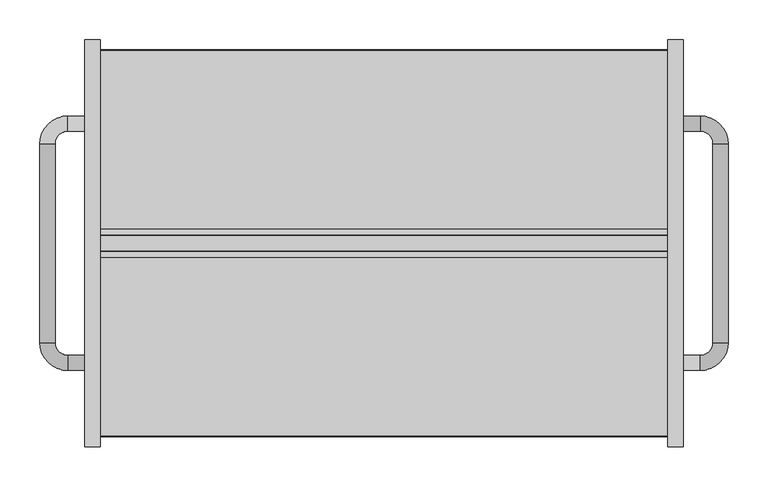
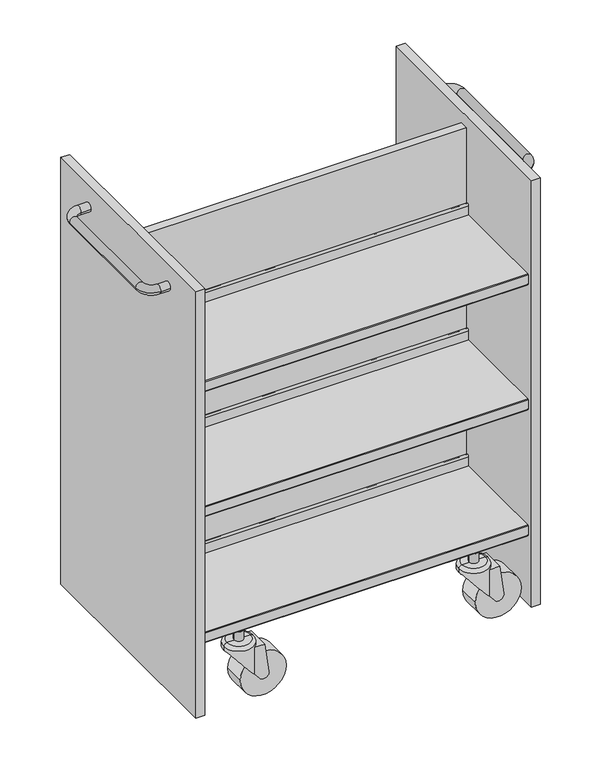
"""IFC4 building model written with IfcOpenShell, lengths in millimetres: furniture geometry, BK Library - Smaaland - Book Trolley : BK Library - Smaaland - Book Trolley."""

from ifc_helpers import new_model, si_unit, point, frame, frame_2d, origin, place, context, project, spatial, polyline, circle_curve, ellipse_curve, trimmed, segment, composite_curve, outline, extrude, source, transform, mapped, element, save
from ifc_brep_helpers import plane_surface, cylinder_surface, revolved_surface, advanced_brep


def furniture_164f6c11(model_context):
    return source(origin(), model_context, "Body", "SolidModel", [
        advanced_brep(
        [(375.0, 159.5044954, 946.5056536), (375.0, 140.5044954, 946.5056536), (396.5136552, 140.5044954, 946.5056536), (396.5136552, 159.5044954, 946.5056536), (431.5136552, 124.5044954, 946.5056536), (412.5136552, 124.5044954, 946.5056536), (412.5136552, -124.4790762, 946.5056536), (431.5136552, -124.4790762, 946.5056536), (396.5136552, -159.4790762, 946.5056536), (396.5136552, -140.4790762, 946.5056536), (375.0, -159.4790762, 946.5056536), (375.0, -140.4790762, 946.5056536)],
        [
            (0, 1, circle_curve(frame((375.0, 150.0044954, 946.5056536), z_axis=(-1.0, 0.0, 0.0), x_axis=(0.0, -1.0, 0.0)), 9.5)),
            (1, 0, circle_curve(frame((375.0, 150.0044954, 946.5056536), z_axis=(-1.0, 0.0, 0.0), x_axis=(0.0, -1.0, 0.0)), 9.5)),
            (1, 2),
            (2, 3, circle_curve(frame((396.5136552, 150.0044954, 946.5056536), z_axis=(-1.0, 0.0, 0.0), x_axis=(0.0, -1.0, 0.0)), 9.5)),
            (3, 0),
            (3, 2, circle_curve(frame((396.5136552, 150.0044954, 946.5056536), z_axis=(-1.0, 0.0, 0.0), x_axis=(0.0, -1.0, 0.0)), 9.5)),
            (4, 3, circle_curve(frame((396.5136552, 124.5044954, 946.5056536), z_axis=(0.0, 0.0, 1.0), x_axis=(0.0, 1.0, 0.0)), 35.0)),
            (2, 5, circle_curve(frame((396.5136552, 124.5044954, 946.5056536), z_axis=(0.0, 0.0, -1.0), x_axis=(0.0, 1.0, 0.0)), 16.0)),
            (5, 4, circle_curve(frame((422.0136552, 124.5044954, 946.5056536), z_axis=(0.0, 1.0, 0.0), x_axis=(-1.0, 0.0, 0.0)), 9.5)),
            (4, 5, circle_curve(frame((422.0136552, 124.5044954, 946.5056536), z_axis=(0.0, 1.0, 0.0), x_axis=(-1.0, 0.0, 0.0)), 9.5)),
            (5, 6),
            (6, 7, circle_curve(frame((422.0136552, -124.4790762, 946.5056536), z_axis=(0.0, 1.0, 0.0), x_axis=(-1.0, 0.0, 0.0)), 9.5)),
            (7, 4),
            (7, 6, circle_curve(frame((422.0136552, -124.4790762, 946.5056536), z_axis=(0.0, 1.0, 0.0), x_axis=(-1.0, 0.0, 0.0)), 9.5)),
            (8, 7, circle_curve(frame((396.5136552, -124.4790762, 946.5056536), z_axis=(0.0, 0.0, 1.0), x_axis=(1.0, 0.0, 0.0)), 35.0)),
            (6, 9, circle_curve(frame((396.5136552, -124.4790762, 946.5056536), z_axis=(0.0, 0.0, -1.0), x_axis=(1.0, 0.0, 0.0)), 16.0)),
            (9, 8, circle_curve(frame((396.5136552, -149.9790762, 946.5056536), z_axis=(1.0, 0.0, 0.0), x_axis=(0.0, 1.0, 0.0)), 9.5)),
            (8, 9, circle_curve(frame((396.5136552, -149.9790762, 946.5056536), z_axis=(1.0, 0.0, 0.0), x_axis=(0.0, 1.0, 0.0)), 9.5)),
            (10, 11, circle_curve(frame((375.0, -149.9790762, 946.5056536), z_axis=(-1.0, 0.0, 0.0), x_axis=(0.0, 1.0, 0.0)), 9.5)),
            (11, 10, circle_curve(frame((375.0, -149.9790762, 946.5056536), z_axis=(-1.0, 0.0, 0.0), x_axis=(0.0, 1.0, 0.0)), 9.5)),
            (9, 11),
            (10, 8),
        ],
        [
            plane_surface(frame((375.0, 140.5044954, 19.5047724), z_axis=(-1.0, 0.0, 0.0), x_axis=(0.0, 0.0, 1.0))),
            cylinder_surface(frame((375.0, 150.0044954, 946.5056536), z_axis=(-1.0, 0.0, 0.0), x_axis=(0.0, -1.0, 0.0)), 9.5),
            revolved_surface(trimmed(ellipse_curve(frame((396.5136552, 150.0044954, 946.5056536), z_axis=(-1.0, 0.0, 0.0), x_axis=(0.0, -1.0, 0.0)), 9.5, 9.5), [point((396.5136552, 140.5044954, 946.5056536))], [point((396.5136552, 159.5044954, 946.5056536))], True, "CARTESIAN"), (396.5136552, 124.5044954, 19.5047724), (0.0, 0.0, -1.0)),
            revolved_surface(trimmed(ellipse_curve(frame((396.5136552, 150.0044954, 946.5056536), z_axis=(-1.0, 0.0, 0.0), x_axis=(0.0, -1.0, 0.0)), 9.5, 9.5), [point((396.5136552, 159.5044954, 946.5056536))], [point((396.5136552, 140.5044954, 946.5056536))], True, "CARTESIAN"), (396.5136552, 124.5044954, 19.5047724), (0.0, 0.0, -1.0)),
            cylinder_surface(frame((422.0136552, 124.5044954, 946.5056536), z_axis=(0.0, 1.0, 0.0), x_axis=(-1.0, 0.0, 0.0)), 9.5),
            revolved_surface(trimmed(ellipse_curve(frame((422.0136552, -124.4790762, 946.5056536), z_axis=(0.0, 1.0, 0.0), x_axis=(-1.0, 0.0, 0.0)), 9.5, 9.5), [point((412.5136552, -124.4790762, 946.5056536))], [point((431.5136552, -124.4790762, 946.5056536))], True, "CARTESIAN"), (396.5136552, -124.4790762, 19.5047724), (0.0, 0.0, -1.0)),
            revolved_surface(trimmed(ellipse_curve(frame((422.0136552, -124.4790762, 946.5056536), z_axis=(0.0, 1.0, 0.0), x_axis=(-1.0, 0.0, 0.0)), 9.5, 9.5), [point((431.5136552, -124.4790762, 946.5056536))], [point((412.5136552, -124.4790762, 946.5056536))], True, "CARTESIAN"), (396.5136552, -124.4790762, 19.5047724), (0.0, 0.0, -1.0)),
            plane_surface(frame((375.0, -140.4790762, 19.5047724), z_axis=(-1.0, 0.0, 0.0), x_axis=(0.0, 0.0, 1.0))),
            cylinder_surface(frame((396.5136552, -149.9790762, 946.5056536), z_axis=(1.0, 0.0, 0.0), x_axis=(0.0, 1.0, 0.0)), 9.5),
        ],
        [
            (0, [[1, 2]]),
            (1, [[-2, 3, 4, 5]]),
            (1, [[-1, -5, 6, -3]]),
            (2, [[7, -4, 8, 9]]),
            (3, [[-8, -6, -7, 10]]),
            (4, [[-9, 11, 12, 13]]),
            (4, [[-10, -13, 14, -11]]),
            (5, [[15, -12, 16, 17]]),
            (6, [[-16, -14, -15, 18]]),
            (7, [[19, 20]]),
            (8, [[-17, 21, -19, 22]]),
            (8, [[-18, -22, -20, -21]]),
        ],
    ),
        advanced_brep(
        [(-375.0, 159.5044954, 946.5056536), (-375.0, 140.5044954, 946.5056536), (-396.5136552, 159.5044954, 946.5056536), (-396.5136552, 140.5044954, 946.5056536), (-412.5136552, 124.5044954, 946.5056536), (-431.5136552, 124.5044954, 946.5056536), (-431.5136552, -124.4790762, 946.5056536), (-412.5136552, -124.4790762, 946.5056536), (-396.5136552, -140.4790762, 946.5056536), (-396.5136552, -159.4790762, 946.5056536), (-375.0, -159.4790762, 946.5056536), (-375.0, -140.4790762, 946.5056536)],
        [
            (0, 1, circle_curve(frame((-375.0, 150.0044954, 946.5056536), z_axis=(1.0, 0.0, 0.0), x_axis=(0.0, -1.0, 0.0)), 9.5)),
            (1, 0, circle_curve(frame((-375.0, 150.0044954, 946.5056536), z_axis=(1.0, 0.0, 0.0), x_axis=(0.0, -1.0, 0.0)), 9.5)),
            (0, 2),
            (2, 3, circle_curve(frame((-396.5136552, 150.0044954, 946.5056536), z_axis=(1.0, 0.0, 0.0), x_axis=(0.0, -1.0, 0.0)), 9.5)),
            (3, 1),
            (3, 2, circle_curve(frame((-396.5136552, 150.0044954, 946.5056536), z_axis=(1.0, 0.0, 0.0), x_axis=(0.0, -1.0, 0.0)), 9.5)),
            (4, 3, circle_curve(frame((-396.5136552, 124.5044954, 946.5056536), z_axis=(0.0, 0.0, -1.0), x_axis=(0.0, 1.0, 0.0)), 16.0)),
            (2, 5, circle_curve(frame((-396.5136552, 124.5044954, 946.5056536), z_axis=(0.0, 0.0, 1.0), x_axis=(0.0, 1.0, 0.0)), 35.0)),
            (5, 4, circle_curve(frame((-422.0136552, 124.5044954, 946.5056536), z_axis=(0.0, 1.0, 0.0), x_axis=(1.0, 0.0, 0.0)), 9.5)),
            (4, 5, circle_curve(frame((-422.0136552, 124.5044954, 946.5056536), z_axis=(0.0, 1.0, 0.0), x_axis=(1.0, 0.0, 0.0)), 9.5)),
            (5, 6),
            (6, 7, circle_curve(frame((-422.0136552, -124.4790762, 946.5056536), z_axis=(0.0, 1.0, 0.0), x_axis=(1.0, 0.0, 0.0)), 9.5)),
            (7, 4),
            (7, 6, circle_curve(frame((-422.0136552, -124.4790762, 946.5056536), z_axis=(0.0, 1.0, 0.0), x_axis=(1.0, 0.0, 0.0)), 9.5)),
            (8, 7, circle_curve(frame((-396.5136552, -124.4790762, 946.5056536), z_axis=(0.0, 0.0, -1.0), x_axis=(-1.0, 0.0, 0.0)), 16.0)),
            (6, 9, circle_curve(frame((-396.5136552, -124.4790762, 946.5056536), z_axis=(0.0, 0.0, 1.0), x_axis=(-1.0, 0.0, 0.0)), 35.0)),
            (9, 8, circle_curve(frame((-396.5136552, -149.9790762, 946.5056536), z_axis=(-1.0, 0.0, 0.0), x_axis=(0.0, 1.0, 0.0)), 9.5)),
            (8, 9, circle_curve(frame((-396.5136552, -149.9790762, 946.5056536), z_axis=(-1.0, 0.0, 0.0), x_axis=(0.0, 1.0, 0.0)), 9.5)),
            (10, 11, circle_curve(frame((-375.0, -149.9790762, 946.5056536), z_axis=(1.0, 0.0, 0.0), x_axis=(0.0, 1.0, 0.0)), 9.5)),
            (11, 10, circle_curve(frame((-375.0, -149.9790762, 946.5056536), z_axis=(1.0, 0.0, 0.0), x_axis=(0.0, 1.0, 0.0)), 9.5)),
            (9, 10),
            (11, 8),
        ],
        [
            plane_surface(frame((-375.0, 140.5044954, 19.5047724), z_axis=(1.0, 0.0, 0.0), x_axis=(0.0, 0.0, 1.0))),
            cylinder_surface(frame((-375.0, 150.0044954, 946.5056536), z_axis=(1.0, 0.0, 0.0), x_axis=(0.0, -1.0, 0.0)), 9.5),
            revolved_surface(trimmed(ellipse_curve(frame((-396.5136552, 150.0044954, 946.5056536), z_axis=(1.0, 0.0, 0.0), x_axis=(0.0, -1.0, 0.0)), 9.5, 9.5), [point((-396.5136552, 159.5044954, 946.5056536))], [point((-396.5136552, 140.5044954, 946.5056536))], True, "CARTESIAN"), (-396.5136552, 124.5044954, 19.5047724), (0.0, 0.0, 1.0)),
            revolved_surface(trimmed(ellipse_curve(frame((-396.5136552, 150.0044954, 946.5056536), z_axis=(1.0, 0.0, 0.0), x_axis=(0.0, -1.0, 0.0)), 9.5, 9.5), [point((-396.5136552, 140.5044954, 946.5056536))], [point((-396.5136552, 159.5044954, 946.5056536))], True, "CARTESIAN"), (-396.5136552, 124.5044954, 19.5047724), (0.0, 0.0, 1.0)),
            cylinder_surface(frame((-422.0136552, 124.5044954, 946.5056536), z_axis=(0.0, 1.0, 0.0), x_axis=(1.0, 0.0, 0.0)), 9.5),
            revolved_surface(trimmed(ellipse_curve(frame((-422.0136552, -124.4790762, 946.5056536), z_axis=(0.0, 1.0, 0.0), x_axis=(1.0, 0.0, 0.0)), 9.5, 9.5), [point((-431.5136552, -124.4790762, 946.5056536))], [point((-412.5136552, -124.4790762, 946.5056536))], True, "CARTESIAN"), (-396.5136552, -124.4790762, 19.5047724), (0.0, 0.0, 1.0)),
            revolved_surface(trimmed(ellipse_curve(frame((-422.0136552, -124.4790762, 946.5056536), z_axis=(0.0, 1.0, 0.0), x_axis=(1.0, 0.0, 0.0)), 9.5, 9.5), [point((-412.5136552, -124.4790762, 946.5056536))], [point((-431.5136552, -124.4790762, 946.5056536))], True, "CARTESIAN"), (-396.5136552, -124.4790762, 19.5047724), (0.0, 0.0, 1.0)),
            plane_surface(frame((-375.0, -140.4790762, 19.5047724), z_axis=(1.0, 0.0, 0.0), x_axis=(0.0, 0.0, 1.0))),
            cylinder_surface(frame((-396.5136552, -149.9790762, 946.5056536), z_axis=(-1.0, 0.0, 0.0), x_axis=(0.0, 1.0, 0.0)), 9.5),
        ],
        [
            (0, [[1, 2]]),
            (1, [[-1, 3, 4, 5]]),
            (1, [[-2, -5, 6, -3]]),
            (2, [[7, -4, 8, 9]]),
            (3, [[-8, -6, -7, 10]]),
            (4, [[-9, 11, 12, 13]]),
            (4, [[-10, -13, 14, -11]]),
            (5, [[15, -12, 16, 17]]),
            (6, [[-16, -14, -15, 18]]),
            (7, [[19, 20]]),
            (8, [[-17, 21, -20, 22]]),
            (8, [[-18, -22, -19, -21]]),
        ],
    ),
        extrude(outline(polyline([(356.0, 9.5), (356.0, -9.5), (-356.0, -9.5), (-356.0, 9.5), (356.0, 9.5)])), frame((0.0, 0.0, 154.5054026), z_axis=(0.0, 0.0, 1.0), x_axis=(1.0, 0.0, 0.0)), (0.0, 0.0, 1.0), 815.0),
        extrude(outline(composite_curve([segment(polyline([(17.75, 773.5054026), (241.25, 773.5054026)]), True, "CONTINUOUS"), segment(trimmed(circle_curve(frame_2d((241.25, 772.0054026)), 1.5), [point((241.25, 773.5054026))], [point((242.75, 772.0054026))], False, "CARTESIAN"), True, "CONTINUOUS"), segment(polyline([(242.75, 772.0054026), (242.75, 750.5054026)]), True, "CONTINUOUS"), segment(trimmed(circle_curve(frame_2d((241.25, 750.5054026)), 1.5), [point((242.75, 750.5054026))], [point((241.25, 749.0054026))], False, "CARTESIAN"), True, "CONTINUOUS"), segment(polyline([(241.25, 749.0054026), (229.25, 749.0054026), (229.25, 750.5054026), (241.25, 750.5054026), (241.25, 772.0054026), (17.7048221, 772.0054026)]), True, "CONTINUOUS"), segment(trimmed(circle_curve(frame_2d((17.7048221, 773.4602247)), 1.4548221), [point((17.7048221, 772.0054026))], [point((16.25, 773.4602247))], False, "CARTESIAN"), True, "CONTINUOUS"), segment(polyline([(16.25, 773.4602247), (16.25, 795.007464)]), True, "CONTINUOUS"), segment(trimmed(circle_curve(frame_2d((14.25, 795.007464)), 2.0), [point((16.25, 795.007464))], [point((12.25, 795.007464))], True, "CARTESIAN"), True, "CONTINUOUS"), segment(polyline([(12.25, 795.007464), (12.25, 786.5054026), (10.75, 786.5054026), (10.75, 795.025085)]), True, "CONTINUOUS"), segment(trimmed(circle_curve(frame_2d((14.25, 795.025085)), 3.5), [point((10.75, 795.025085))], [point((17.75, 795.025085))], False, "CARTESIAN"), True, "CONTINUOUS"), segment(polyline([(17.75, 795.025085), (17.75, 773.5054026)]), True, "CONTINUOUS")], self_intersect=False)), frame((-356.0, 0.0, 0.0), z_axis=(1.0, 0.0, 0.0), x_axis=(0.0, 1.0, 0.0)), (0.0, 0.0, 1.0), 712.0),
        extrude(outline(composite_curve([segment(polyline([(-17.75, 773.5054026), (-17.75, 795.025085)]), True, "CONTINUOUS"), segment(trimmed(circle_curve(frame_2d((-14.25, 795.025085)), 3.5), [point((-17.75, 795.025085))], [point((-10.75, 795.025085))], False, "CARTESIAN"), True, "CONTINUOUS"), segment(polyline([(-10.75, 795.025085), (-10.75, 786.5054026), (-12.25, 786.5054026), (-12.25, 795.007464)]), True, "CONTINUOUS"), segment(trimmed(circle_curve(frame_2d((-14.25, 795.007464)), 2.0), [point((-12.25, 795.007464))], [point((-16.25, 795.007464))], True, "CARTESIAN"), True, "CONTINUOUS"), segment(polyline([(-16.25, 795.007464), (-16.25, 773.4602247)]), True, "CONTINUOUS"), segment(trimmed(circle_curve(frame_2d((-17.7048221, 773.4602247)), 1.4548221), [point((-16.25, 773.4602247))], [point((-17.7048221, 772.0054026))], False, "CARTESIAN"), True, "CONTINUOUS"), segment(polyline([(-17.7048221, 772.0054026), (-241.25, 772.0054026), (-241.25, 750.5054026), (-229.25, 750.5054026), (-229.25, 749.0054026), (-241.25, 749.0054026)]), True, "CONTINUOUS"), segment(trimmed(circle_curve(frame_2d((-241.25, 750.5054026)), 1.5), [point((-241.25, 749.0054026))], [point((-242.75, 750.5054026))], False, "CARTESIAN"), True, "CONTINUOUS"), segment(polyline([(-242.75, 750.5054026), (-242.75, 772.0054026)]), True, "CONTINUOUS"), segment(trimmed(circle_curve(frame_2d((-241.25, 772.0054026)), 1.5), [point((-242.75, 772.0054026))], [point((-241.25, 773.5054026))], False, "CARTESIAN"), True, "CONTINUOUS"), segment(polyline([(-241.25, 773.5054026), (-17.75, 773.5054026)]), True, "CONTINUOUS")], self_intersect=False)), frame((-356.0, 0.0, 0.0), z_axis=(1.0, 0.0, 0.0), x_axis=(0.0, 1.0, 0.0)), (0.0, 0.0, 1.0), 712.0),
        extrude(outline(composite_curve([segment(polyline([(17.75, 485.5054026), (241.25, 485.5054026)]), True, "CONTINUOUS"), segment(trimmed(circle_curve(frame_2d((241.25, 484.0054026)), 1.5), [point((241.25, 485.5054026))], [point((242.75, 484.0054026))], False, "CARTESIAN"), True, "CONTINUOUS"), segment(polyline([(242.75, 484.0054026), (242.75, 462.5054026)]), True, "CONTINUOUS"), segment(trimmed(circle_curve(frame_2d((241.25, 462.5054026)), 1.5), [point((242.75, 462.5054026))], [point((241.25, 461.0054026))], False, "CARTESIAN"), True, "CONTINUOUS"), segment(polyline([(241.25, 461.0054026), (229.25, 461.0054026), (229.25, 462.5054026), (241.25, 462.5054026), (241.25, 484.0054026), (17.7048221, 484.0054026)]), True, "CONTINUOUS"), segment(trimmed(circle_curve(frame_2d((17.7048221, 485.4602247)), 1.4548221), [point((17.7048221, 484.0054026))], [point((16.25, 485.4602247))], False, "CARTESIAN"), True, "CONTINUOUS"), segment(polyline([(16.25, 485.4602247), (16.25, 507.007464)]), True, "CONTINUOUS"), segment(trimmed(circle_curve(frame_2d((14.25, 507.007464)), 2.0), [point((16.25, 507.007464))], [point((12.25, 507.007464))], True, "CARTESIAN"), True, "CONTINUOUS"), segment(polyline([(12.25, 507.007464), (12.25, 498.5054026), (10.75, 498.5054026), (10.75, 507.025085)]), True, "CONTINUOUS"), segment(trimmed(circle_curve(frame_2d((14.25, 507.025085)), 3.5), [point((10.75, 507.025085))], [point((17.75, 507.025085))], False, "CARTESIAN"), True, "CONTINUOUS"), segment(polyline([(17.75, 507.025085), (17.75, 485.5054026)]), True, "CONTINUOUS")], self_intersect=False)), frame((-356.0, 0.0, 0.0), z_axis=(1.0, 0.0, 0.0), x_axis=(0.0, 1.0, 0.0)), (0.0, 0.0, 1.0), 712.0),
        extrude(outline(composite_curve([segment(polyline([(-17.75, 485.5054026), (-17.75, 507.025085)]), True, "CONTINUOUS"), segment(trimmed(circle_curve(frame_2d((-14.25, 507.025085)), 3.5), [point((-17.75, 507.025085))], [point((-10.75, 507.025085))], False, "CARTESIAN"), True, "CONTINUOUS"), segment(polyline([(-10.75, 507.025085), (-10.75, 498.5054026), (-12.25, 498.5054026), (-12.25, 507.007464)]), True, "CONTINUOUS"), segment(trimmed(circle_curve(frame_2d((-14.25, 507.007464)), 2.0), [point((-12.25, 507.007464))], [point((-16.25, 507.007464))], True, "CARTESIAN"), True, "CONTINUOUS"), segment(polyline([(-16.25, 507.007464), (-16.25, 485.4602247)]), True, "CONTINUOUS"), segment(trimmed(circle_curve(frame_2d((-17.7048221, 485.4602247)), 1.4548221), [point((-16.25, 485.4602247))], [point((-17.7048221, 484.0054026))], False, "CARTESIAN"), True, "CONTINUOUS"), segment(polyline([(-17.7048221, 484.0054026), (-241.25, 484.0054026), (-241.25, 462.5054026), (-229.25, 462.5054026), (-229.25, 461.0054026), (-241.25, 461.0054026)]), True, "CONTINUOUS"), segment(trimmed(circle_curve(frame_2d((-241.25, 462.5054026)), 1.5), [point((-241.25, 461.0054026))], [point((-242.75, 462.5054026))], False, "CARTESIAN"), True, "CONTINUOUS"), segment(polyline([(-242.75, 462.5054026), (-242.75, 484.0054026)]), True, "CONTINUOUS"), segment(trimmed(circle_curve(frame_2d((-241.25, 484.0054026)), 1.5), [point((-242.75, 484.0054026))], [point((-241.25, 485.5054026))], False, "CARTESIAN"), True, "CONTINUOUS"), segment(polyline([(-241.25, 485.5054026), (-17.75, 485.5054026)]), True, "CONTINUOUS")], self_intersect=False)), frame((-356.0, 0.0, 0.0), z_axis=(1.0, 0.0, 0.0), x_axis=(0.0, 1.0, 0.0)), (0.0, 0.0, 1.0), 712.0),
        extrude(outline(composite_curve([segment(polyline([(17.75, 195.1999512), (241.25, 195.1999512)]), True, "CONTINUOUS"), segment(trimmed(circle_curve(frame_2d((241.25, 193.6999512)), 1.5), [point((241.25, 195.1999512))], [point((242.75, 193.6999512))], False, "CARTESIAN"), True, "CONTINUOUS"), segment(polyline([(242.75, 193.6999512), (242.75, 172.1999512)]), True, "CONTINUOUS"), segment(trimmed(circle_curve(frame_2d((241.25, 172.1999512)), 1.5), [point((242.75, 172.1999512))], [point((241.25, 170.6999512))], False, "CARTESIAN"), True, "CONTINUOUS"), segment(polyline([(241.25, 170.6999512), (229.25, 170.6999512), (229.25, 172.1999512), (241.25, 172.1999512), (241.25, 193.6999512), (17.7048221, 193.6999512)]), True, "CONTINUOUS"), segment(trimmed(circle_curve(frame_2d((17.7048221, 195.1547733)), 1.4548221), [point((17.7048221, 193.6999512))], [point((16.25, 195.1547733))], False, "CARTESIAN"), True, "CONTINUOUS"), segment(polyline([(16.25, 195.1547733), (16.25, 216.7020126)]), True, "CONTINUOUS"), segment(trimmed(circle_curve(frame_2d((14.25, 216.7020126)), 2.0), [point((16.25, 216.7020126))], [point((12.25, 216.7020126))], True, "CARTESIAN"), True, "CONTINUOUS"), segment(polyline([(12.25, 216.7020126), (12.25, 208.1999512), (10.75, 208.1999512), (10.75, 216.7196336)]), True, "CONTINUOUS"), segment(trimmed(circle_curve(frame_2d((14.25, 216.7196336)), 3.5), [point((10.75, 216.7196336))], [point((17.75, 216.7196336))], False, "CARTESIAN"), True, "CONTINUOUS"), segment(polyline([(17.75, 216.7196336), (17.75, 195.1999512)]), True, "CONTINUOUS")], self_intersect=False)), frame((-356.0, 0.0, 0.0), z_axis=(1.0, 0.0, 0.0), x_axis=(0.0, 1.0, 0.0)), (0.0, 0.0, 1.0), 712.0),
        extrude(outline(composite_curve([segment(polyline([(-17.75, 195.1999512), (-17.75, 216.7196336)]), True, "CONTINUOUS"), segment(trimmed(circle_curve(frame_2d((-14.25, 216.7196336)), 3.5), [point((-17.75, 216.7196336))], [point((-10.75, 216.7196336))], False, "CARTESIAN"), True, "CONTINUOUS"), segment(polyline([(-10.75, 216.7196336), (-10.75, 208.1999512), (-12.25, 208.1999512), (-12.25, 216.7020126)]), True, "CONTINUOUS"), segment(trimmed(circle_curve(frame_2d((-14.25, 216.7020126)), 2.0), [point((-12.25, 216.7020126))], [point((-16.25, 216.7020126))], True, "CARTESIAN"), True, "CONTINUOUS"), segment(polyline([(-16.25, 216.7020126), (-16.25, 195.1547733)]), True, "CONTINUOUS"), segment(trimmed(circle_curve(frame_2d((-17.7048221, 195.1547733)), 1.4548221), [point((-16.25, 195.1547733))], [point((-17.7048221, 193.6999512))], False, "CARTESIAN"), True, "CONTINUOUS"), segment(polyline([(-17.7048221, 193.6999512), (-241.25, 193.6999512), (-241.25, 172.1999512), (-229.25, 172.1999512), (-229.25, 170.6999512), (-241.25, 170.6999512)]), True, "CONTINUOUS"), segment(trimmed(circle_curve(frame_2d((-241.25, 172.1999512)), 1.5), [point((-241.25, 170.6999512))], [point((-242.75, 172.1999512))], False, "CARTESIAN"), True, "CONTINUOUS"), segment(polyline([(-242.75, 172.1999512), (-242.75, 193.6999512)]), True, "CONTINUOUS"), segment(trimmed(circle_curve(frame_2d((-241.25, 193.6999512)), 1.5), [point((-242.75, 193.6999512))], [point((-241.25, 195.1999512))], False, "CARTESIAN"), True, "CONTINUOUS"), segment(polyline([(-241.25, 195.1999512), (-17.75, 195.1999512)]), True, "CONTINUOUS")], self_intersect=False)), frame((-356.0, 0.0, 0.0), z_axis=(1.0, 0.0, 0.0), x_axis=(0.0, 1.0, 0.0)), (0.0, 0.0, 1.0), 712.0),
        extrude(outline(polyline([(356.0, 255.0), (375.0, 255.0), (375.0, -255.0), (356.0, -255.0), (356.0, 255.0)])), frame((0.0, 0.0, 13.6999998), z_axis=(0.0, 0.0, 1.0), x_axis=(1.0, 0.0, 0.0)), (0.0, 0.0, 1.0), 982.8054028),
        extrude(outline(polyline([(-356.0, 255.0), (-356.0, -255.0), (-375.0, -255.0), (-375.0, 255.0), (-356.0, 255.0)])), frame((0.0, 0.0, 13.6999998), z_axis=(0.0, 0.0, 1.0), x_axis=(1.0, 0.0, 0.0)), (0.0, 0.0, 1.0), 982.8054028),
        advanced_brep(
        [(-288.5923637, -210.0247023, 121.6226045), (-223.6101389, -210.0247023, 121.6226045), (-223.6101389, -210.0247023, 116.3900038), (-235.8706963, -184.600363, 116.3900038), (-235.8706963, -184.600363, 54.5515736), (-285.8899558, -197.0514424, 113.1446696), (-288.5923637, -210.0247023, 113.1446696), (-223.6101389, -210.0247023, 113.8999998), (-223.6101389, -210.0247023, 44.4908375), (-227.2821321, -195.0203445, 44.4908375), (-233.218088, -186.9588569, 51.4442799), (-233.218088, -186.9588569, 113.8999998), (-233.312175, -233.1835104, 113.8999998), (-233.312175, -233.1835104, 51.5544945), (-227.2821321, -225.0290601, 44.4908375), (-285.8899558, -222.9979622, 113.1446696), (-235.9880793, -235.5420043, 54.6890773), (-235.9880793, -235.5420043, 116.3900038), (-227.2821321, -210.0247023, 44.4908375), (-230.6101389, -210.0247023, 128.6226045), (-281.5923637, -210.0247023, 128.6226045), (-256.1012513, -210.0247023, 128.6226045), (-225.0193298, -235.5420043, 41.8401668), (-204.6504597, -235.5420043, 51.0748876), (-214.1674795, -235.5420043, 116.3900038), (-214.1674795, -184.600363, 116.3900038), (-204.6504597, -184.600363, 51.0748876), (-225.0193298, -184.600363, 41.8401668), (-225.0193298, -233.1835104, 41.8401668), (-225.0193298, -186.9588569, 41.8401668), (-204.6504597, -233.1835104, 51.0748876), (-204.6504597, -186.9588569, 51.0748876), (-213.8046628, -233.1835104, 113.8999998), (-213.8046628, -186.9588569, 113.8999998)],
        [
            (0, 1, circle_curve(frame((-256.1012513, -210.0247023, 121.6226045), z_axis=(0.0, 0.0, -1.0), x_axis=(-1.0, 0.0, 0.0)), 32.4911124)),
            (1, 2),
            (2, 3, circle_curve(frame((-256.1012513, -210.0247023, 116.3900038), z_axis=(0.0, 0.0, 1.0), x_axis=(-1.0, 0.0, 0.0)), 32.4911124)),
            (3, 4),
            (4, 5, ellipse_curve(frame((-256.1012513, -210.0247023, 78.2498623), z_axis=(0.7605596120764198, 0.0, 0.6492681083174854), x_axis=(0.6492681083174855, 0.0, -0.7605596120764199)), 50.0426742, 32.4911124)),
            (5, 6, circle_curve(frame((-256.1012513, -210.0247023, 113.1446696), z_axis=(0.0, 0.0, 1.0), x_axis=(-1.0, 0.0, 0.0)), 32.4911124)),
            (6, 0),
            (7, 8),
            (8, 9, circle_curve(frame((-256.1012513, -210.0247023, 44.4908375), z_axis=(0.0, 0.0, 1.0), x_axis=(-1.0, 0.0, 0.0)), 32.4911124)),
            (9, 10, ellipse_curve(frame((-256.1012513, -210.0247023, 78.2498623), z_axis=(0.7605596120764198, 0.0, 0.6492681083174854), x_axis=(0.6492681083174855, 0.0, -0.7605596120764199)), 50.0426742, 32.4911124)),
            (10, 11),
            (11, 7, circle_curve(frame((-256.1012513, -210.0247023, 113.8999998), z_axis=(0.0, 0.0, -1.0), x_axis=(-1.0, 0.0, 0.0)), 32.4911124)),
            (7, 12, circle_curve(frame((-256.1012513, -210.0247023, 113.8999998), z_axis=(0.0, 0.0, -1.0), x_axis=(-1.0, 0.0, 0.0)), 32.4911124)),
            (12, 13),
            (13, 14, ellipse_curve(frame((-256.1012513, -210.0247023, 78.2498623), z_axis=(0.7605596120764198, 0.0, 0.6492681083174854), x_axis=(0.6492681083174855, 0.0, -0.7605596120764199)), 50.0426742, 32.4911124)),
            (14, 8, circle_curve(frame((-256.1012513, -210.0247023, 44.4908375), z_axis=(0.0, 0.0, 1.0), x_axis=(-1.0, 0.0, 0.0)), 32.4911124)),
            (1, 0, circle_curve(frame((-256.1012513, -210.0247023, 121.6226045), z_axis=(0.0, 0.0, -1.0), x_axis=(-1.0, 0.0, 0.0)), 32.4911124)),
            (6, 15, circle_curve(frame((-256.1012513, -210.0247023, 113.1446696), z_axis=(0.0, 0.0, 1.0), x_axis=(-1.0, 0.0, 0.0)), 32.4911124)),
            (15, 16, ellipse_curve(frame((-256.1012513, -210.0247023, 78.2498623), z_axis=(0.7605596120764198, 0.0, 0.6492681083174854), x_axis=(0.6492681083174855, 0.0, -0.7605596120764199)), 50.0426742, 32.4911124)),
            (16, 17),
            (17, 2, circle_curve(frame((-256.1012513, -210.0247023, 116.3900038), z_axis=(0.0, 0.0, 1.0), x_axis=(-1.0, 0.0, 0.0)), 32.4911124)),
            (8, 18),
            (18, 9),
            (14, 18),
            (19, 20, circle_curve(frame((-256.1012513, -210.0247023, 128.6226045), z_axis=(0.0, 0.0, 1.0), x_axis=(-1.0, 0.0, 0.0)), 25.4911124)),
            (20, 21),
            (21, 19),
            (20, 19, circle_curve(frame((-256.1012513, -210.0247023, 128.6226045), z_axis=(0.0, 0.0, 1.0), x_axis=(-1.0, 0.0, 0.0)), 25.4911124)),
            (0, 20, circle_curve(frame((-281.5923637, -210.0247023, 121.6226045), z_axis=(0.0, 1.0, 0.0), x_axis=(1.0, 0.0, 0.0)), 7.0)),
            (19, 1, circle_curve(frame((-230.6101389, -210.0247023, 121.6226045), z_axis=(0.0, 1.0, 0.0), x_axis=(-1.0, 0.0, 0.0)), 7.0)),
            (5, 15),
            (22, 23, circle_curve(frame((-216.167464, -235.5420043, 49.3967529), z_axis=(0.0, -1.0, 0.0), x_axis=(1.0, 0.0, 0.0)), 11.6386221)),
            (23, 24),
            (24, 17),
            (16, 22),
            (25, 26),
            (26, 27, circle_curve(frame((-216.167464, -184.600363, 49.3967529), z_axis=(0.0, 1.0, 0.0), x_axis=(1.0, 0.0, 0.0)), 11.6386221)),
            (27, 4),
            (3, 25),
            (24, 25),
            (28, 22),
            (27, 29),
            (29, 10),
            (13, 28),
            (28, 30, circle_curve(frame((-216.167464, -233.1835104, 49.3967529), z_axis=(0.0, -1.0, 0.0), x_axis=(1.0, 0.0, 0.0)), 11.6386221)),
            (30, 23),
            (26, 31),
            (31, 29, circle_curve(frame((-216.167464, -186.9588569, 49.3967529), z_axis=(0.0, 1.0, 0.0), x_axis=(1.0, 0.0, 0.0)), 11.6386221)),
            (30, 32),
            (32, 33),
            (33, 31),
            (12, 32),
            (11, 33),
        ],
        [
            cylinder_surface(frame((-256.1012513, -210.0247023, 133.8335618), z_axis=(0.0, 0.0, -1.0), x_axis=(-1.0, 0.0, 0.0)), 32.4911124),
            plane_surface(frame((-256.1012513, -210.0247023, 44.4908375), z_axis=(0.0, 0.0, -1.0), x_axis=(-1.0, 0.0, 0.0))),
            plane_surface(frame((-256.1012513, -210.0247023, 128.6226045), z_axis=(0.0, 0.0, 1.0), x_axis=(-1.0, 0.0, 0.0))),
            revolved_surface(trimmed(ellipse_curve(frame((-281.5923637, -210.0247023, 121.6226045), z_axis=(0.0, -1.0, 0.0), x_axis=(1.0, 0.0, 0.0)), 7.0, 7.0), [point((-281.5923637, -210.0247023, 128.6226045))], [point((-288.5923637, -210.0247023, 121.6226045))], True, "CARTESIAN"), (-256.1012513, -210.0247023, 133.8335618), (0.0, 0.0, -1.0)),
            plane_surface(frame((-285.8899558, -292.5269459, 113.1446696), z_axis=(0.0, 0.0, -1.0), x_axis=(0.0, 1.0, 0.0))),
            plane_surface(frame((-214.1674795, -235.5420043, 116.3900038), z_axis=(0.0, -1.0, 0.0), x_axis=(-1.0, 0.0, 0.0))),
            plane_surface(frame((-214.1674795, -184.600363, 116.3900038), z_axis=(0.0, 1.0, 0.0), x_axis=(1.0, 0.0, 0.0))),
            plane_surface(frame((-214.1674795, -235.5420043, 116.3900038), z_axis=(0.0, 0.0, 1.0), x_axis=(0.0, 1.0, 0.0))),
            plane_surface(frame((-259.1674795, -235.5420043, 81.8416749), z_axis=(-0.7605596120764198, 0.0, -0.6492681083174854), x_axis=(0.0, 1.0, 0.0))),
            cylinder_surface(frame((-216.167464, -184.600363, 49.3967529), z_axis=(0.0, -1.0, 0.0), x_axis=(1.0, 0.0, 0.0)), 11.6386221),
            plane_surface(frame((-204.6504597, -235.5420043, 51.0748876), z_axis=(0.9895505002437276, 0.0, 0.14418671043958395), x_axis=(0.0, 1.0, 0.0))),
            plane_surface(frame((-190.5731728, -233.1835104, 113.8999998), z_axis=(0.0, 1.0, 0.0), x_axis=(-1.0, 0.0, 0.0))),
            plane_surface(frame((-190.5731728, -186.9588569, 113.8999998), z_axis=(0.0, 0.0, -1.0), x_axis=(-1.0, 0.0, 0.0))),
            plane_surface(frame((-190.5731728, -186.9588569, 11.6999998), z_axis=(0.0, -1.0, 0.0), x_axis=(-1.0, 0.0, 0.0))),
        ],
        [
            (0, [[1, 2, 3, 4, 5, 6, 7]]),
            (0, [[8, 9, 10, 11, 12]]),
            (0, [[-8, 13, 14, 15, 16]]),
            (0, [[17, -7, 18, 19, 20, 21, -2]]),
            (1, [[-9, 22, 23]]),
            (1, [[-22, -16, 24]]),
            (2, [[25, 26, 27]]),
            (2, [[-26, 28, -27]]),
            (3, [[-1, 29, -25, 30]]),
            (3, [[-17, -30, -28, -29]]),
            (4, [[31, -18, -6]]),
            (5, [[32, 33, 34, -20, 35]]),
            (6, [[36, 37, 38, -4, 39]]),
            (7, [[40, -39, -3, -21, -34]]),
            (8, [[41, -35, -19, -31, -5, -38, 42, 43, -10, -23, -24, -15, 44]]),
            (9, [[-32, -41, 45, 46]]),
            (9, [[-37, 47, 48, -42]]),
            (10, [[-33, -46, 49, 50, 51, -47, -36, -40]]),
            (11, [[-45, -44, -14, 52, -49]]),
            (12, [[-50, -52, -13, -12, 53]]),
            (13, [[-48, -51, -53, -11, -43]]),
        ],
    ),
        extrude(outline(composite_curve([segment(trimmed(circle_curve(frame_2d((-256.1012513, -210.0556201)), 10.0), [point((-266.1012513, -210.0556201))], [point((-246.1012513, -210.0556201))], False, "CARTESIAN"), True, "CONTINUOUS"), segment(trimmed(circle_curve(frame_2d((-256.1012513, -210.0556201)), 10.0), [point((-246.1012513, -210.0556201))], [point((-266.1012513, -210.0556201))], False, "CARTESIAN"), True, "CONTINUOUS")], self_intersect=False)), frame((0.0, 0.0, 126.1999998), z_axis=(0.0, 0.0, 1.0), x_axis=(1.0, 0.0, 0.0)), (0.0, 0.0, 1.0), 24.8998986),
        extrude(outline(composite_curve([segment(trimmed(circle_curve(frame_2d((49.3999998, -216.0856892)), 50.0), [point((49.3999998, -266.0856892))], [point((49.3999998, -166.0856892))], False, "CARTESIAN"), True, "CONTINUOUS"), segment(trimmed(circle_curve(frame_2d((49.3999998, -216.0856892)), 50.0), [point((49.3999998, -166.0856892))], [point((49.3999998, -266.0856892))], False, "CARTESIAN"), True, "CONTINUOUS")], self_intersect=False)), frame((0.0, -233.1835104, 0.0), z_axis=(0.0, 1.0, 0.0), x_axis=(0.0, 0.0, 1.0)), (0.0, 0.0, 1.0), 46.2857127),
        advanced_brep(
        [(226.2082425, -197.0514424, 113.1446696), (226.2082425, -222.9979622, 113.1446696), (223.5058346, -210.0247023, 113.1446696), (287.0788685, -235.5420043, 41.8401668), (307.4477387, -235.5420043, 51.0748876), (297.9307188, -235.5420043, 116.3900038), (276.110119, -235.5420043, 116.3900038), (276.110119, -235.5420043, 54.6890773), (297.9307188, -184.600363, 116.3900038), (307.4477387, -184.600363, 51.0748876), (287.0788685, -184.600363, 41.8401668), (276.227502, -184.600363, 54.5515736), (276.227502, -184.600363, 116.3900038), (288.4880595, -210.0247023, 116.3900038), (287.0788685, -233.1835104, 41.8401668), (287.0788685, -186.9588569, 41.8401668), (278.8801103, -186.9588569, 51.4442799), (284.8160663, -195.0203445, 44.4908375), (284.8160663, -210.0247023, 44.4908375), (284.8160663, -225.0290601, 44.4908375), (278.7860233, -233.1835104, 51.5544945), (307.4477387, -233.1835104, 51.0748876), (307.4477387, -186.9588569, 51.0748876), (298.2935356, -233.1835104, 113.8999998), (298.2935356, -186.9588569, 113.8999998), (278.7860233, -233.1835104, 113.8999998), (288.4880595, -210.0247023, 113.8999998), (278.8801103, -186.9588569, 113.8999998), (223.5058346, -210.0247023, 121.6226045), (288.4880595, -210.0247023, 121.6226045), (288.4880595, -210.0247023, 44.4908375), (281.4880595, -210.0247023, 128.6226045), (230.5058346, -210.0247023, 128.6226045), (255.996947, -210.0247023, 128.6226045)],
        [
            (0, 1),
            (1, 2, circle_curve(frame((255.996947, -210.0247023, 113.1446696), z_axis=(0.0, 0.0, -1.0), x_axis=(-1.0, 0.0, 0.0)), 32.4911124)),
            (2, 0, circle_curve(frame((255.996947, -210.0247023, 113.1446696), z_axis=(0.0, 0.0, -1.0), x_axis=(-1.0, 0.0, 0.0)), 32.4911124)),
            (3, 4, circle_curve(frame((295.9307344, -235.5420043, 49.3967529), z_axis=(0.0, -1.0, 0.0), x_axis=(1.0, 0.0, 0.0)), 11.6386221)),
            (4, 5),
            (5, 6),
            (6, 7),
            (7, 3),
            (8, 9),
            (9, 10, circle_curve(frame((295.9307344, -184.600363, 49.3967529), z_axis=(0.0, 1.0, 0.0), x_axis=(1.0, 0.0, 0.0)), 11.6386221)),
            (10, 11),
            (11, 12),
            (12, 8),
            (5, 8),
            (12, 13, circle_curve(frame((255.996947, -210.0247023, 116.3900038), z_axis=(0.0, 0.0, -1.0), x_axis=(-1.0, 0.0, 0.0)), 32.4911124)),
            (13, 6, circle_curve(frame((255.996947, -210.0247023, 116.3900038), z_axis=(0.0, 0.0, -1.0), x_axis=(-1.0, 0.0, 0.0)), 32.4911124)),
            (14, 3),
            (7, 1, ellipse_curve(frame((255.996947, -210.0247023, 78.2498623), z_axis=(-0.7605596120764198, 0.0, -0.6492681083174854), x_axis=(0.6492681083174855, 0.0, -0.7605596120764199)), 50.0426742, 32.4911124)),
            (0, 11, ellipse_curve(frame((255.996947, -210.0247023, 78.2498623), z_axis=(-0.7605596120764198, 0.0, -0.6492681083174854), x_axis=(0.6492681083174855, 0.0, -0.7605596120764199)), 50.0426742, 32.4911124)),
            (10, 15),
            (15, 16),
            (16, 17, ellipse_curve(frame((255.996947, -210.0247023, 78.2498623), z_axis=(-0.7605596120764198, 0.0, -0.6492681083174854), x_axis=(0.6492681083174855, 0.0, -0.7605596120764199)), 50.0426742, 32.4911124)),
            (17, 18),
            (18, 19),
            (19, 20, ellipse_curve(frame((255.996947, -210.0247023, 78.2498623), z_axis=(-0.7605596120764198, 0.0, -0.6492681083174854), x_axis=(0.6492681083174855, 0.0, -0.7605596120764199)), 50.0426742, 32.4911124)),
            (20, 14),
            (14, 21, circle_curve(frame((295.9307344, -233.1835104, 49.3967529), z_axis=(0.0, -1.0, 0.0), x_axis=(1.0, 0.0, 0.0)), 11.6386221)),
            (21, 4),
            (9, 22),
            (22, 15, circle_curve(frame((295.9307344, -186.9588569, 49.3967529), z_axis=(0.0, 1.0, 0.0), x_axis=(1.0, 0.0, 0.0)), 11.6386221)),
            (21, 23),
            (23, 24),
            (24, 22),
            (20, 25),
            (25, 23),
            (25, 26, circle_curve(frame((255.996947, -210.0247023, 113.8999998), z_axis=(0.0, 0.0, 1.0), x_axis=(-1.0, 0.0, 0.0)), 32.4911124)),
            (26, 27, circle_curve(frame((255.996947, -210.0247023, 113.8999998), z_axis=(0.0, 0.0, 1.0), x_axis=(-1.0, 0.0, 0.0)), 32.4911124)),
            (27, 24),
            (27, 16),
            (28, 29, circle_curve(frame((255.996947, -210.0247023, 121.6226045), z_axis=(0.0, 0.0, -1.0), x_axis=(-1.0, 0.0, 0.0)), 32.4911124)),
            (29, 13),
            (2, 28),
            (26, 30),
            (30, 17, circle_curve(frame((255.996947, -210.0247023, 44.4908375), z_axis=(0.0, 0.0, 1.0), x_axis=(-1.0, 0.0, 0.0)), 32.4911124)),
            (19, 30, circle_curve(frame((255.996947, -210.0247023, 44.4908375), z_axis=(0.0, 0.0, 1.0), x_axis=(-1.0, 0.0, 0.0)), 32.4911124)),
            (29, 28, circle_curve(frame((255.996947, -210.0247023, 121.6226045), z_axis=(0.0, 0.0, -1.0), x_axis=(-1.0, 0.0, 0.0)), 32.4911124)),
            (30, 18),
            (31, 32, circle_curve(frame((255.996947, -210.0247023, 128.6226045), z_axis=(0.0, 0.0, 1.0), x_axis=(-1.0, 0.0, 0.0)), 25.4911124)),
            (32, 33),
            (33, 31),
            (32, 31, circle_curve(frame((255.996947, -210.0247023, 128.6226045), z_axis=(0.0, 0.0, 1.0), x_axis=(-1.0, 0.0, 0.0)), 25.4911124)),
            (28, 32, circle_curve(frame((230.5058346, -210.0247023, 121.6226045), z_axis=(0.0, 1.0, 0.0), x_axis=(1.0, 0.0, 0.0)), 7.0)),
            (31, 29, circle_curve(frame((281.4880595, -210.0247023, 121.6226045), z_axis=(0.0, 1.0, 0.0), x_axis=(-1.0, 0.0, 0.0)), 7.0)),
        ],
        [
            plane_surface(frame((226.2082425, -292.5269459, 113.1446696), z_axis=(0.0, 0.0, -1.0), x_axis=(0.0, 1.0, 0.0))),
            plane_surface(frame((297.9307188, -235.5420043, 116.3900038), z_axis=(0.0, -1.0, 0.0), x_axis=(-1.0, 0.0, 0.0))),
            plane_surface(frame((297.9307188, -184.600363, 116.3900038), z_axis=(0.0, 1.0, 0.0), x_axis=(1.0, 0.0, 0.0))),
            plane_surface(frame((297.9307188, -235.5420043, 116.3900038), z_axis=(0.0, 0.0, 1.0), x_axis=(0.0, 1.0, 0.0))),
            plane_surface(frame((252.9307188, -235.5420043, 81.8416749), z_axis=(-0.7605596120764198, 0.0, -0.6492681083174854), x_axis=(0.0, 1.0, 0.0))),
            cylinder_surface(frame((295.9307344, -184.600363, 49.3967529), z_axis=(0.0, -1.0, 0.0), x_axis=(1.0, 0.0, 0.0)), 11.6386221),
            plane_surface(frame((307.4477387, -235.5420043, 51.0748876), z_axis=(0.9895505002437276, 0.0, 0.14418671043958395), x_axis=(0.0, 1.0, 0.0))),
            plane_surface(frame((321.5250255, -233.1835104, 113.8999998), z_axis=(0.0, 1.0, 0.0), x_axis=(-1.0, 0.0, 0.0))),
            plane_surface(frame((321.5250255, -186.9588569, 113.8999998), z_axis=(0.0, 0.0, -1.0), x_axis=(-1.0, 0.0, 0.0))),
            plane_surface(frame((321.5250255, -186.9588569, 11.6999998), z_axis=(0.0, -1.0, 0.0), x_axis=(-1.0, 0.0, 0.0))),
            cylinder_surface(frame((255.996947, -210.0247023, 133.8335618), z_axis=(0.0, 0.0, -1.0), x_axis=(-1.0, 0.0, 0.0)), 32.4911124),
            plane_surface(frame((255.996947, -210.0247023, 44.4908375), z_axis=(0.0, 0.0, -1.0), x_axis=(-1.0, 0.0, 0.0))),
            plane_surface(frame((255.996947, -210.0247023, 128.6226045), z_axis=(0.0, 0.0, 1.0), x_axis=(-1.0, 0.0, 0.0))),
            revolved_surface(trimmed(ellipse_curve(frame((230.5058346, -210.0247023, 121.6226045), z_axis=(0.0, -1.0, 0.0), x_axis=(1.0, 0.0, 0.0)), 7.0, 7.0), [point((230.5058346, -210.0247023, 128.6226045))], [point((223.5058346, -210.0247023, 121.6226045))], True, "CARTESIAN"), (255.996947, -210.0247023, 133.8335618), (0.0, 0.0, -1.0)),
        ],
        [
            (0, [[1, 2, 3]]),
            (1, [[4, 5, 6, 7, 8]]),
            (2, [[9, 10, 11, 12, 13]]),
            (3, [[14, -13, 15, 16, -6]]),
            (4, [[17, -8, 18, -1, 19, -11, 20, 21, 22, 23, 24, 25, 26]]),
            (5, [[-4, -17, 27, 28]]),
            (5, [[-10, 29, 30, -20]]),
            (6, [[-5, -28, 31, 32, 33, -29, -9, -14]]),
            (7, [[-27, -26, 34, 35, -31]]),
            (8, [[-32, -35, 36, 37, 38]]),
            (9, [[-30, -33, -38, 39, -21]]),
            (10, [[40, 41, -15, -12, -19, -3, 42]]),
            (10, [[43, 44, -22, -39, -37]]),
            (10, [[-43, -36, -34, -25, 45]]),
            (10, [[46, -42, -2, -18, -7, -16, -41]]),
            (11, [[-44, 47, -23]]),
            (11, [[-47, -45, -24]]),
            (12, [[48, 49, 50]]),
            (12, [[-49, 51, -50]]),
            (13, [[-40, 52, -48, 53]]),
            (13, [[-46, -53, -51, -52]]),
        ],
    ),
        extrude(outline(composite_curve([segment(trimmed(circle_curve(frame_2d((49.3999998, 296.0125091)), 50.0), [point((49.3999998, 246.0125091))], [point((49.3999998, 346.0125091))], False, "CARTESIAN"), True, "CONTINUOUS"), segment(trimmed(circle_curve(frame_2d((49.3999998, 296.0125091)), 50.0), [point((49.3999998, 346.0125091))], [point((49.3999998, 246.0125091))], False, "CARTESIAN"), True, "CONTINUOUS")], self_intersect=False)), frame((0.0, -233.1835104, 0.0), z_axis=(0.0, 1.0, 0.0), x_axis=(0.0, 0.0, 1.0)), (0.0, 0.0, 1.0), 46.2857127),
        extrude(outline(composite_curve([segment(trimmed(circle_curve(frame_2d((255.996947, -210.0556201)), 10.0), [point((245.996947, -210.0556201))], [point((265.996947, -210.0556201))], False, "CARTESIAN"), True, "CONTINUOUS"), segment(trimmed(circle_curve(frame_2d((255.996947, -210.0556201)), 10.0), [point((265.996947, -210.0556201))], [point((245.996947, -210.0556201))], False, "CARTESIAN"), True, "CONTINUOUS")], self_intersect=False)), frame((0.0, 0.0, 126.1999998), z_axis=(0.0, 0.0, 1.0), x_axis=(1.0, 0.0, 0.0)), (0.0, 0.0, 1.0), 24.8998986),
        advanced_brep(
        [(226.2082425, 222.9896546, 113.1446696), (226.2082425, 197.0431348, 113.1446696), (223.5058346, 210.0163947, 113.1446696), (287.0788685, 184.4990927, 41.8401668), (307.4477387, 184.4990927, 51.0748876), (297.9307188, 184.4990927, 116.3900038), (276.110119, 184.4990927, 116.3900038), (276.110119, 184.4990927, 54.6890773), (297.9307188, 235.440734, 116.3900038), (307.4477387, 235.440734, 51.0748876), (287.0788685, 235.440734, 41.8401668), (276.227502, 235.440734, 54.5515736), (276.227502, 235.440734, 116.3900038), (288.4880595, 210.0163947, 116.3900038), (287.0788685, 186.8575866, 41.8401668), (287.0788685, 233.0822401, 41.8401668), (278.8801103, 233.0822401, 51.4442799), (284.8160663, 225.0207525, 44.4908375), (284.8160663, 210.0163947, 44.4908375), (284.8160663, 195.0120369, 44.4908375), (278.7860233, 186.8575866, 51.5544945), (307.4477387, 186.8575866, 51.0748876), (307.4477387, 233.0822401, 51.0748876), (298.2935356, 186.8575866, 113.8999998), (298.2935356, 233.0822401, 113.8999998), (278.7860233, 186.8575866, 113.8999998), (288.4880595, 210.0163947, 113.8999998), (278.8801103, 233.0822401, 113.8999998), (223.5058346, 210.0163947, 121.6226045), (288.4880595, 210.0163947, 121.6226045), (288.4880595, 210.0163947, 44.4908375), (281.4880595, 210.0163947, 128.6226045), (230.5058346, 210.0163947, 128.6226045), (255.996947, 210.0163947, 128.6226045)],
        [
            (0, 1),
            (1, 2, circle_curve(frame((255.996947, 210.0163947, 113.1446696), z_axis=(0.0, 0.0, -1.0), x_axis=(-1.0, 0.0, 0.0)), 32.4911124)),
            (2, 0, circle_curve(frame((255.996947, 210.0163947, 113.1446696), z_axis=(0.0, 0.0, -1.0), x_axis=(-1.0, 0.0, 0.0)), 32.4911124)),
            (3, 4, circle_curve(frame((295.9307344, 184.4990927, 49.3967529), z_axis=(0.0, -1.0, 0.0), x_axis=(1.0, 0.0, 0.0)), 11.6386221)),
            (4, 5),
            (5, 6),
            (6, 7),
            (7, 3),
            (8, 9),
            (9, 10, circle_curve(frame((295.9307344, 235.440734, 49.3967529), z_axis=(0.0, 1.0, 0.0), x_axis=(1.0, 0.0, 0.0)), 11.6386221)),
            (10, 11),
            (11, 12),
            (12, 8),
            (5, 8),
            (12, 13, circle_curve(frame((255.996947, 210.0163947, 116.3900038), z_axis=(0.0, 0.0, -1.0), x_axis=(-1.0, 0.0, 0.0)), 32.4911124)),
            (13, 6, circle_curve(frame((255.996947, 210.0163947, 116.3900038), z_axis=(0.0, 0.0, -1.0), x_axis=(-1.0, 0.0, 0.0)), 32.4911124)),
            (14, 3),
            (7, 1, ellipse_curve(frame((255.996947, 210.0163947, 78.2498623), z_axis=(-0.7605596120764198, 0.0, -0.6492681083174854), x_axis=(0.6492681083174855, 0.0, -0.7605596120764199)), 50.0426742, 32.4911124)),
            (0, 11, ellipse_curve(frame((255.996947, 210.0163947, 78.2498623), z_axis=(-0.7605596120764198, 0.0, -0.6492681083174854), x_axis=(0.6492681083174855, 0.0, -0.7605596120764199)), 50.0426742, 32.4911124)),
            (10, 15),
            (15, 16),
            (16, 17, ellipse_curve(frame((255.996947, 210.0163947, 78.2498623), z_axis=(-0.7605596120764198, 0.0, -0.6492681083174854), x_axis=(0.6492681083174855, 0.0, -0.7605596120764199)), 50.0426742, 32.4911124)),
            (17, 18),
            (18, 19),
            (19, 20, ellipse_curve(frame((255.996947, 210.0163947, 78.2498623), z_axis=(-0.7605596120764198, 0.0, -0.6492681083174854), x_axis=(0.6492681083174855, 0.0, -0.7605596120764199)), 50.0426742, 32.4911124)),
            (20, 14),
            (14, 21, circle_curve(frame((295.9307344, 186.8575866, 49.3967529), z_axis=(0.0, -1.0, 0.0), x_axis=(1.0, 0.0, 0.0)), 11.6386221)),
            (21, 4),
            (9, 22),
            (22, 15, circle_curve(frame((295.9307344, 233.0822401, 49.3967529), z_axis=(0.0, 1.0, 0.0), x_axis=(1.0, 0.0, 0.0)), 11.6386221)),
            (21, 23),
            (23, 24),
            (24, 22),
            (20, 25),
            (25, 23),
            (25, 26, circle_curve(frame((255.996947, 210.0163947, 113.8999998), z_axis=(0.0, 0.0, 1.0), x_axis=(-1.0, 0.0, 0.0)), 32.4911124)),
            (26, 27, circle_curve(frame((255.996947, 210.0163947, 113.8999998), z_axis=(0.0, 0.0, 1.0), x_axis=(-1.0, 0.0, 0.0)), 32.4911124)),
            (27, 24),
            (27, 16),
            (28, 29, circle_curve(frame((255.996947, 210.0163947, 121.6226045), z_axis=(0.0, 0.0, -1.0), x_axis=(-1.0, 0.0, 0.0)), 32.4911124)),
            (29, 13),
            (2, 28),
            (26, 30),
            (30, 17, circle_curve(frame((255.996947, 210.0163947, 44.4908375), z_axis=(0.0, 0.0, 1.0), x_axis=(-1.0, 0.0, 0.0)), 32.4911124)),
            (19, 30, circle_curve(frame((255.996947, 210.0163947, 44.4908375), z_axis=(0.0, 0.0, 1.0), x_axis=(-1.0, 0.0, 0.0)), 32.4911124)),
            (29, 28, circle_curve(frame((255.996947, 210.0163947, 121.6226045), z_axis=(0.0, 0.0, -1.0), x_axis=(-1.0, 0.0, 0.0)), 32.4911124)),
            (30, 18),
            (31, 32, circle_curve(frame((255.996947, 210.0163947, 128.6226045), z_axis=(0.0, 0.0, 1.0), x_axis=(-1.0, 0.0, 0.0)), 25.4911124)),
            (32, 33),
            (33, 31),
            (32, 31, circle_curve(frame((255.996947, 210.0163947, 128.6226045), z_axis=(0.0, 0.0, 1.0), x_axis=(-1.0, 0.0, 0.0)), 25.4911124)),
            (28, 32, circle_curve(frame((230.5058346, 210.0163947, 121.6226045), z_axis=(0.0, 1.0, 0.0), x_axis=(1.0, 0.0, 0.0)), 7.0)),
            (31, 29, circle_curve(frame((281.4880595, 210.0163947, 121.6226045), z_axis=(0.0, 1.0, 0.0), x_axis=(-1.0, 0.0, 0.0)), 7.0)),
        ],
        [
            plane_surface(frame((226.2082425, 127.5141511, 113.1446696), z_axis=(0.0, 0.0, -1.0), x_axis=(0.0, 1.0, 0.0))),
            plane_surface(frame((297.9307188, 184.4990927, 116.3900038), z_axis=(0.0, -1.0, 0.0), x_axis=(-1.0, 0.0, 0.0))),
            plane_surface(frame((297.9307188, 235.440734, 116.3900038), z_axis=(0.0, 1.0, 0.0), x_axis=(1.0, 0.0, 0.0))),
            plane_surface(frame((297.9307188, 184.4990927, 116.3900038), z_axis=(0.0, 0.0, 1.0), x_axis=(0.0, 1.0, 0.0))),
            plane_surface(frame((252.9307188, 184.4990927, 81.8416749), z_axis=(-0.7605596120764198, 0.0, -0.6492681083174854), x_axis=(0.0, 1.0, 0.0))),
            cylinder_surface(frame((295.9307344, 235.440734, 49.3967529), z_axis=(0.0, -1.0, 0.0), x_axis=(1.0, 0.0, 0.0)), 11.6386221),
            plane_surface(frame((307.4477387, 184.4990927, 51.0748876), z_axis=(0.9895505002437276, 0.0, 0.14418671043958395), x_axis=(0.0, 1.0, 0.0))),
            plane_surface(frame((321.5250255, 186.8575866, 113.8999998), z_axis=(0.0, 1.0, 0.0), x_axis=(-1.0, 0.0, 0.0))),
            plane_surface(frame((321.5250255, 233.0822401, 113.8999998), z_axis=(0.0, 0.0, -1.0), x_axis=(-1.0, 0.0, 0.0))),
            plane_surface(frame((321.5250255, 233.0822401, 11.6999998), z_axis=(0.0, -1.0, 0.0), x_axis=(-1.0, 0.0, 0.0))),
            cylinder_surface(frame((255.996947, 210.0163947, 133.8335618), z_axis=(0.0, 0.0, -1.0), x_axis=(-1.0, 0.0, 0.0)), 32.4911124),
            plane_surface(frame((255.996947, 210.0163947, 44.4908375), z_axis=(0.0, 0.0, -1.0), x_axis=(-1.0, 0.0, 0.0))),
            plane_surface(frame((255.996947, 210.0163947, 128.6226045), z_axis=(0.0, 0.0, 1.0), x_axis=(-1.0, 0.0, 0.0))),
            revolved_surface(trimmed(ellipse_curve(frame((230.5058346, 210.0163947, 121.6226045), z_axis=(0.0, -1.0, 0.0), x_axis=(1.0, 0.0, 0.0)), 7.0, 7.0), [point((230.5058346, 210.0163947, 128.6226045))], [point((223.5058346, 210.0163947, 121.6226045))], True, "CARTESIAN"), (255.996947, 210.0163947, 133.8335618), (0.0, 0.0, -1.0)),
        ],
        [
            (0, [[1, 2, 3]]),
            (1, [[4, 5, 6, 7, 8]]),
            (2, [[9, 10, 11, 12, 13]]),
            (3, [[14, -13, 15, 16, -6]]),
            (4, [[17, -8, 18, -1, 19, -11, 20, 21, 22, 23, 24, 25, 26]]),
            (5, [[-4, -17, 27, 28]]),
            (5, [[-10, 29, 30, -20]]),
            (6, [[-5, -28, 31, 32, 33, -29, -9, -14]]),
            (7, [[-27, -26, 34, 35, -31]]),
            (8, [[-32, -35, 36, 37, 38]]),
            (9, [[-30, -33, -38, 39, -21]]),
            (10, [[40, 41, -15, -12, -19, -3, 42]]),
            (10, [[43, 44, -22, -39, -37]]),
            (10, [[-43, -36, -34, -25, 45]]),
            (10, [[46, -42, -2, -18, -7, -16, -41]]),
            (11, [[-44, 47, -23]]),
            (11, [[-47, -45, -24]]),
            (12, [[48, 49, 50]]),
            (12, [[-49, 51, -50]]),
            (13, [[-40, 52, -48, 53]]),
            (13, [[-46, -53, -51, -52]]),
        ],
    ),
        extrude(outline(composite_curve([segment(trimmed(circle_curve(frame_2d((49.3999998, 296.0125091)), 50.0), [point((49.3999998, 246.0125091))], [point((49.3999998, 346.0125091))], False, "CARTESIAN"), True, "CONTINUOUS"), segment(trimmed(circle_curve(frame_2d((49.3999998, 296.0125091)), 50.0), [point((49.3999998, 346.0125091))], [point((49.3999998, 246.0125091))], False, "CARTESIAN"), True, "CONTINUOUS")], self_intersect=False)), frame((0.0, 186.8575866, 0.0), z_axis=(0.0, 1.0, 0.0), x_axis=(0.0, 0.0, 1.0)), (0.0, 0.0, 1.0), 46.2857127),
    ])


if __name__ == "__main__":
    model = new_model("IFC4")
    model_context = context("Model", 3, world=origin())
    ifc_project = project(units=[si_unit("LENGTHUNIT", "METRE", prefix="MILLI")], contexts=[model_context])
    site = spatial("IfcSite", under=ifc_project)
    building = spatial("IfcBuilding", under=site)
    placement = place(None, origin())
    furniture_shape = furniture_164f6c11(model_context)
    element("IfcFurniture", 1, ObjectType="BK Library - Smaaland - Book Trolley : BK Library - Smaaland - Book Trolley", at=placement, inside=building, context=model_context, shape_type="MappedRepresentation", body=[
        mapped(furniture_shape, transform((0.0, 0.0, 0.0), x_axis=(1.0, 0.0, 0.0), y_axis=(0.0, 1.0, 0.0), z_axis=(0.0, 0.0, 1.0))),
    ])
    save(model, "model.ifc")
